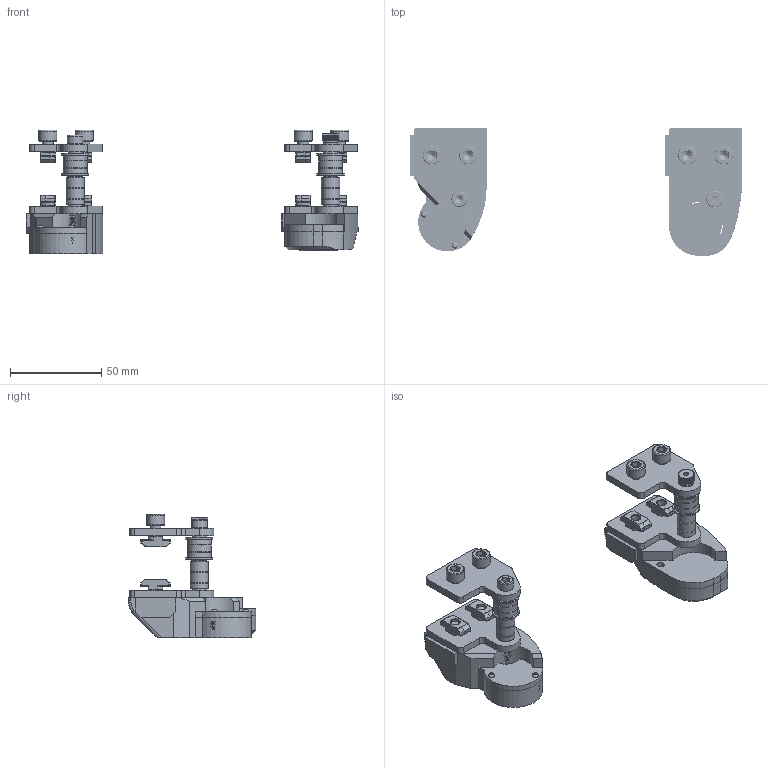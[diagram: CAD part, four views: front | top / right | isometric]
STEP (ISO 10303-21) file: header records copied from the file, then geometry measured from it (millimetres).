
FILE_DESCRIPTION(/* description */ (''),/* implementation_level */ '2;1');
FILE_NAME(/* name */ 'OpenFront-2.0-3-1.step',/* time_stamp */ '2023-09-22T20:51:18+02:00',/* author */ (''),/* organization */ (''),/* preprocessor_version */ 'ST-DEVELOPER v20',/* originating_system */ 'Autodesk Translation Framework v12.9.0.99',/* authorisation */ '');
FILE_SCHEMA (('AUTOMOTIVE_DESIGN { 1 0 10303 214 3 1 1 }'));
Length unit declared in the file: millimetre
Products named in the file (58): Open Front 2.0 3.1; CoreXY Enclosure 2.0 Idler Assembly Left M5; HW1630NC; HW1630NC_1; HW1630NC_2; HW1016NC; HW2947WC; HW2947WC_1; HW2948WC; HW1018NC; HW1018NC_1; HW1836SC; HW1836SC_1; HW1361NC; HW1361NC_1; HW1361NC_2; HW1361NC_3; HW2074SC; HW3056PC; HW3056PC_1; M6x16 (1); M2 HI (2); M5 or M4 HI (1); Mainbody M5 (2); 608ZZ (2); Cover (2); M2x8 (2); Composant271; Composant272; CoreXY Enclosure 2.0 Idler Assembly Left Shoulder bolt (1)(Symétr
ie miroir) (1); HW1630NC_3; HW1630NC_4; HW1630NC_5; HW1016NC_1; HW2947WC_2; HW2947WC_3; HW2948WC_1; HW1018NC_2; HW1018NC_3; HW1836SC_2 ...
Assembly tree (63 placements, depth 3):
  Open Front 2.0 3.1
    CoreXY Enclosure 2.0 Idler Assembly Left M5
      HW1630NC
      HW1630NC_1
      HW1630NC_2
      HW1016NC
      HW2947WC
      HW2947WC_1
      HW2948WC
      HW1018NC
      HW1018NC_1
      HW1836SC
      HW1836SC_1
      HW1361NC
      HW1361NC_1
      HW1361NC_2
      HW1361NC_3
      HW2074SC
      HW3056PC
      HW3056PC_1
      M6x16 (1)  x2
      M2 HI (2)  x2
      M5 or M4 HI (1)
      Mainbody M5 (2)
      608ZZ (2)
      Cover (2)
      M2x8 (2)  x2
    Composant271
    Composant272
    CoreXY Enclosure 2.0 Idler Assembly Left Shoulder bolt (1)(Symétr
ie miroir) (1)
      HW1630NC_3
      HW1630NC_4
      HW1630NC_5
      HW1016NC_1
      HW2947WC_2
      HW2947WC_3
      HW2948WC_1
      HW1018NC_2
      HW1018NC_3
      HW1836SC_2
      HW1836SC_3
      HW1361NC_4
      HW1361NC_5
      HW1361NC_6
      HW1361NC_7
      HW3056PC_2
      HW3056PC_3
      Mainbody M5 (1) (1) (1) (1)
      M2 HI (1) (1) (1) (1)  x2
      M4 HI (1) (1) (1) (1)
      90265A201_18-8 Stainless Steel Shoulder Screw (1) (1) (1)
      8x5x1 Shim (1) (1) (1)  x2
      M2x8 (1) (1) (1) (1)  x2
      608ZZ (1) (1) (1) (1)
      Cover (1) (1) (1) (1)
    SFU1605 retainer v1
    Composant334
    Mainbody M5 (1) (1) (1) (1) (2)
Bounding box: 182 x 70 x 67.85 mm (x, y, z)
Volume: 102011 mm3; surface area: 61476.7 mm2
Topology: 75 solids, 76 shells, 2714 faces, 6822 edges, 4282 vertices
Faces by surface type: plane 970, cylinder 852, bspline 473, cone 242, sphere 98, torus 79
Full cylindrical faces by diameter (mm): 1.48 x36, 2 x36, 2.35 x10, 2.4 x2, 3 x14, 3.091 x5, 3.2 x4, 3.25 x1, 3.5 x2, 3.705 x4, 3.9 x2, 3.961 x8, 4 x6, 4.594 x1, 4.901 x1, 5 x30, 5.026 x40, 5.035 x8, 5.1 x7, 5.6 x2, 5.884 x4, 5.985 x2, 6 x42, 6.1 x8, 6.3 x5, 6.5 x12, 8 x10, 8.5 x1, 9 x1, 9.42 x4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
Entity records: 107014 total; most frequent: CARTESIAN_POINT 51128, ORIENTED_EDGE 11726, DIRECTION 10962, EDGE_CURVE 5863, AXIS2_PLACEMENT_3D 4223, VERTEX_POINT 3679, EDGE_LOOP 2561, LINE 2516
